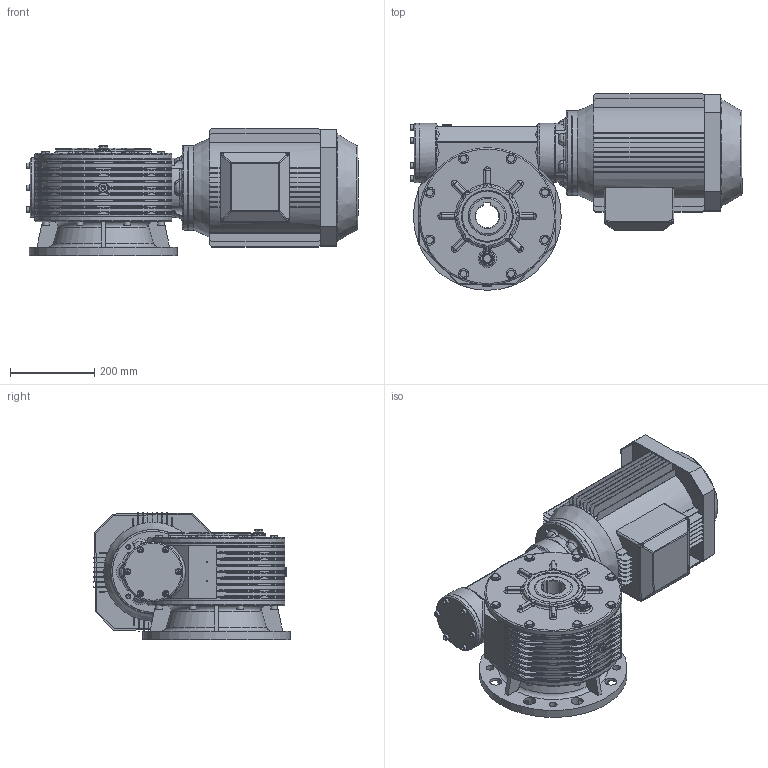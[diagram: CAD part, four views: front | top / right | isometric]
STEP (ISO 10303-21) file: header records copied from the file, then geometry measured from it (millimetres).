
FILE_DESCRIPTION((''),'2;1');
FILE_NAME('Y:\Archivi Inventor\Prog_01\GRAND_70\complessivi\Figurini\mrv70 sito\132m\MRV70_F1_132M_B14.stp','2013-02-08T15:22:03',('tech3'),(''),'Autodesk Inventor 2013','Autodesk Inventor 2013','');
FILE_SCHEMA(('AUTOMOTIVE_DESIGN { 1 0 10303 214 1 1 1 1 }'));
Length unit declared in the file: millimetre
Products named in the file (19): MRV70_132S_132M_B14; MRV70 figurino; 0107001-A0 figurino; 0107008.A0 figurino; 0107029; 0107009; 0107028; DIN 3760 AS AS - 90 x 120 x 12 - NBR; UNI 8839 A 8; Guarnizione 3_8 GAS; Tappo 3_8 GAS_esagn_incsst; DIN EN ISO 4762 M8 x 20; DIN EN 24017 M10 x 20; Tappo3_8 GAS; 0107002-A0-FIG; 0107003-A0-FIG; DIN EN ISO 4762 M10 x 20; 0107006; motori B14 132M
Assembly tree (54 placements, depth 3):
  MRV70_132S_132M_B14
    MRV70 figurino
      0107001-A0 figurino
      0107008.A0 figurino
      0107029  x2
      0107009
      0107028  x2
      DIN 3760 AS AS - 90 x 120 x 12 - NBR  x2
      UNI 8839 A 8  x6
      Guarnizione 3_8 GAS  x3
      Tappo 3_8 GAS_esagn_incsst  x2
      DIN EN ISO 4762 M8 x 20  x6
      DIN EN 24017 M10 x 20  x8
      Tappo3_8 GAS
      0107002-A0-FIG
      0107003-A0-FIG
      DIN EN ISO 4762 M10 x 20  x8
    0107006
    DIN EN ISO 4762 M8 x 20  x6
    motori B14 132M
Bounding box: 785.9 x 465.32 x 300.72 mm (x, y, z)
Volume: 36630748.9 mm3; surface area: 2546782.2 mm2
Topology: 53 solids, 53 shells, 2171 faces, 5471 edges, 3317 vertices
Faces by surface type: plane 893, cylinder 645, torus 240, bspline 209, cone 173, sphere 11
Full cylindrical faces by diameter (mm): 2 x2, 6.647 x12, 8 x14, 8.376 x20, 8.5 x24, 10 x16, 10.5 x16, 11 x16, 11.5 x4, 13 x12, 13.046 x1, 14.63 x8, 14.95 x3, 16 x8, 16.3 x3, 16.5 x2, 18 x4, 20 x6, 22 x6, 24 x10, 25 x1, 28 x8, 38 x1, 61 x1, 75 x1, 90 x4, 97.2 x2, 100 x6, 114 x2, 114.4 x1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
Entity records: 62470 total; most frequent: CARTESIAN_POINT 22326, DIRECTION 8199, ORIENTED_EDGE 7906, EDGE_CURVE 3953, AXIS2_PLACEMENT_3D 3282, VERTEX_POINT 2555, EDGE_LOOP 2098, CIRCLE 1714
